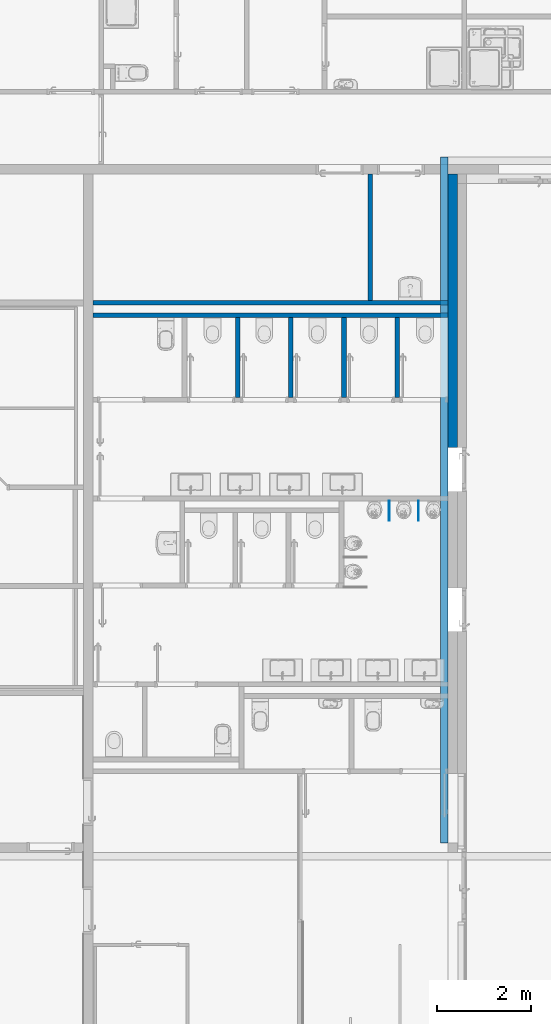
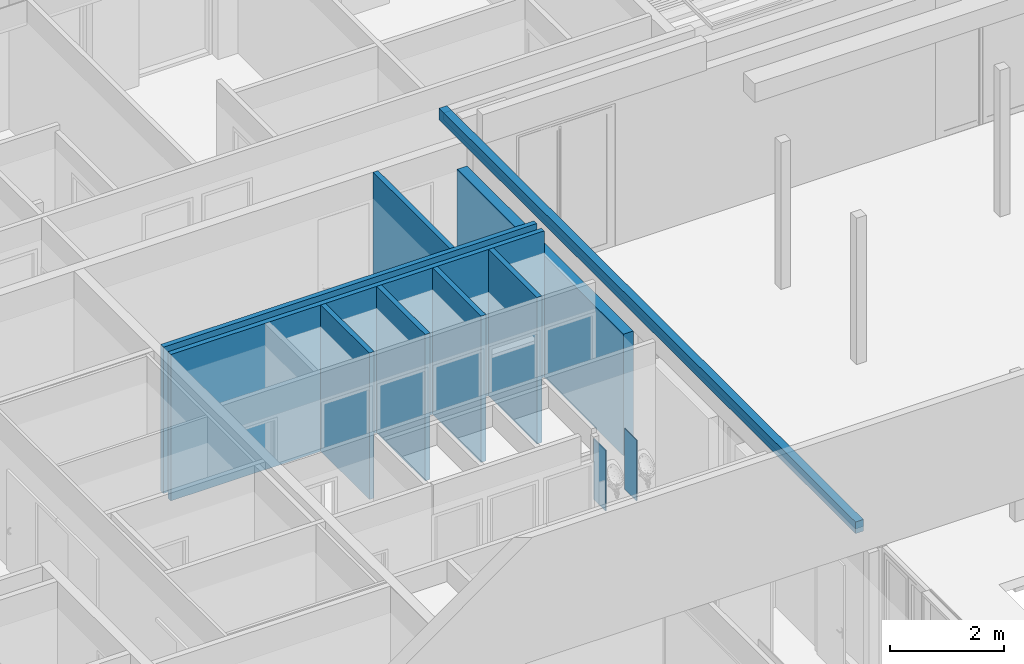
# One storey, part 122 of 240: 12 walls.
"""IFC2X3 building model written with IfcOpenShell, lengths in centimetres."""

from ifc_helpers import new_model, entity, si_unit, converted_unit, derived_unit, direction, frame, frame_2d, origin, place, context, subcontext, project, spatial, polyline, rectangle, extrude, clip, bounded_halfspace, material, layer, layer_set, layer_usage, type_object, element, save


model = new_model("IFC2X3")

# Units and contexts
model_context = context("Model", 3, precision=0.001, world=origin(), true_north=direction((6.12303176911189e-17, 1.0)))
body_context = subcontext(model_context, "Body", "Model", "MODEL_VIEW")
ifc_project = project(units=[si_unit("LENGTHUNIT", "METRE", prefix="CENTI"), si_unit("AREAUNIT", "SQUARE_METRE"), si_unit("VOLUMEUNIT", "CUBIC_METRE"), converted_unit("PLANEANGLEUNIT", "DEGREE", entity("IfcRatioMeasure", 0.0174532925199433), si_unit("PLANEANGLEUNIT", "RADIAN"), dimensions=[0, 0, 0, 0, 0, 0, 0]), si_unit("MASSUNIT", "GRAM", prefix="KILO"), derived_unit("MASSDENSITYUNIT", [(si_unit("MASSUNIT", "GRAM", prefix="KILO"), 1), (si_unit("LENGTHUNIT", "METRE"), -3)]), si_unit("TIMEUNIT", "SECOND"), si_unit("FREQUENCYUNIT", "HERTZ"), si_unit("THERMODYNAMICTEMPERATUREUNIT", "DEGREE_CELSIUS"), derived_unit("THERMALTRANSMITTANCEUNIT", [(si_unit("MASSUNIT", "GRAM", prefix="KILO"), 1), (si_unit("THERMODYNAMICTEMPERATUREUNIT", "KELVIN"), -1), (si_unit("TIMEUNIT", "SECOND"), -3)]), derived_unit("VOLUMETRICFLOWRATEUNIT", [(si_unit("LENGTHUNIT", "METRE"), 3), (si_unit("TIMEUNIT", "SECOND"), -1)]), si_unit("ELECTRICCURRENTUNIT", "AMPERE"), si_unit("ELECTRICVOLTAGEUNIT", "VOLT"), si_unit("POWERUNIT", "WATT"), si_unit("FORCEUNIT", "NEWTON", prefix="KILO"), si_unit("ILLUMINANCEUNIT", "LUX"), si_unit("LUMINOUSFLUXUNIT", "LUMEN"), si_unit("LUMINOUSINTENSITYUNIT", "CANDELA"), derived_unit("USERDEFINED", [(si_unit("MASSUNIT", "GRAM", prefix="KILO"), -1), (si_unit("LENGTHUNIT", "METRE"), -2), (si_unit("TIMEUNIT", "SECOND"), 3), (si_unit("LUMINOUSFLUXUNIT", "LUMEN"), 1)]), derived_unit("LINEARVELOCITYUNIT", [(si_unit("LENGTHUNIT", "METRE"), 1), (si_unit("TIMEUNIT", "SECOND"), -1)]), si_unit("PRESSUREUNIT", "PASCAL"), derived_unit("USERDEFINED", [(si_unit("LENGTHUNIT", "METRE"), -2), (si_unit("MASSUNIT", "GRAM", prefix="KILO"), 1), (si_unit("TIMEUNIT", "SECOND"), -2)])], contexts=[model_context])

# Site, building, storey
site_placement = place(None, frame((-2781.94577612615, 7442.24238424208, 0.0)))
site = spatial("IfcSite", under=ifc_project, at=site_placement, Name="Default", CompositionType="ELEMENT")
building_placement = place(site_placement, origin())
building = spatial("IfcBuilding", under=site, at=building_placement, CompositionType="ELEMENT")
storey_placement = place(building_placement, origin())
storey = spatial("IfcBuildingStorey", under=building, at=storey_placement, Name="N00 - COO", CompositionType="ELEMENT", Elevation=0.0)

# Walls
ifc_material_1 = material(Name="01 - Maçonnerie")
ifc_layer_1 = layer(ifc_material_1, 20.0)
ifc_layer_set_1 = layer_set([ifc_layer_1], Name="Mur de base:04 - Structure - béton - 20cm")
ifc_layer_usage_1 = layer_usage(ifc_layer_set_1, "AXIS2", "NEGATIVE", 10.0)
wall_type_1 = type_object("IfcWallType", Name="Mur de base:04 - Structure - béton - 20cm", PredefinedType="STANDARD", material=ifc_layer_set_1)
wall_1_placement = place(building_placement, frame((-8911.93218005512, -2512.07903364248, 0.0), z_axis=(0.0, 0.0, 1.0), x_axis=(0.0, 1.0, 0.0)))
element("IfcWallStandardCase", 1, at=wall_1_placement, inside=storey, type_object=wall_type_1, material=ifc_layer_usage_1, Name="Mur de base:04 - Structure - béton - 20cm", ObjectType="Mur de base:04 - Structure - béton - 20cm", context=body_context, shape_type="SweptSolid", body=[
    extrude(rectangle(XDim=582.000000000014, YDim=19.9999999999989, at=frame_2d((291.000000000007, 6.21724893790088e-15), x_axis=(-1.0, 0.0))), origin(), (0.0, 0.0, 1.0), 260.0),
])
ifc_material_2 = material(Name="00 - Isolant")
ifc_layer_2 = layer(ifc_material_2, 16.0)
ifc_layer_set_2 = layer_set([ifc_layer_2], Name="Mur de base:04 - retour isolation acrotère - ITE 16cm")
ifc_layer_usage_2 = layer_usage(ifc_layer_set_2, "AXIS2", "NEGATIVE", 8.0)
wall_type_2 = type_object("IfcWallType", Name="Mur de base:04 - retour isolation acrotère - ITE 16cm", PredefinedType="STANDARD", material=ifc_layer_set_2)
wall_2_placement = place(building_placement, frame((-8929.93218005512, -1894.07903364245, 349.0), z_axis=(0.0, 0.0, 1.0), x_axis=(0.0, -1.0, 0.0)))
element("IfcWallStandardCase", 2, at=wall_2_placement, inside=storey, type_object=wall_type_2, material=ifc_layer_usage_2, Name="Mur de base:04 - retour isolation acrotère - ITE 16cm", ObjectType="Mur de base:04 - retour isolation acrotère - ITE 16cm", context=body_context, shape_type="SweptSolid", body=[
    extrude(rectangle(XDim=1458.4427728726, YDim=15.9999999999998, at=frame_2d((729.221386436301, 3.10862446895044e-15), x_axis=(-1.0, 0.0))), origin(), (0.0, 0.0, 1.0), 25.0000000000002),
])
ifc_layer_usage_3 = layer_usage(ifc_layer_set_2, "AXIS2", "NEGATIVE", 8.0)
wall_3_placement = place(storey_placement, frame((-8929.93218005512, -1910.07903364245, 359.0), z_axis=(0.0, 0.0, 1.0), x_axis=(0.0, -1.0, 0.0)))
element("IfcWallStandardCase", 3, at=wall_3_placement, inside=storey, type_object=wall_type_2, material=ifc_layer_usage_3, Name="Mur de base:04 - retour isolation acrotère - ITE 16cm", ObjectType="Mur de base:04 - retour isolation acrotère - ITE 16cm", context=body_context, shape_type="Clipping", body=[
    clip(extrude(rectangle(XDim=1442.4427728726, YDim=15.9999999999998, at=frame_2d((721.221386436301, -5.77315972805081e-15), x_axis=(-1.0, 0.0))), origin(), (0.0, 0.0, 1.0), 15.0000000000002), bounded_halfspace(frame((1442.4427728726, -8.0, 0.0), z_axis=(0.0, 0.0, 1.0), x_axis=(0.0, 1.0, 0.0)), True, frame((1442.4427728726, -8.0, 0.0), z_axis=(0.0, 0.0, 1.0), x_axis=(0.0, 1.0, 0.0)), polyline([(0.0, 0.0), (16.0, 0.0), (16.0, 1442.4427728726), (0.0, 1442.4427728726), (0.0, 0.0)]))),
])
ifc_material_3 = material(Name="01 - Enduit/Plâtre")
ifc_layer_3 = layer(ifc_material_3, 1.3)
ifc_material_4 = material(Name="Terre cuite")
ifc_layer_4 = layer(ifc_material_4, 7.4)
ifc_layer_5 = layer(ifc_material_3, 1.3)
ifc_layer_set_3 = layer_set([ifc_layer_3, ifc_layer_4, ifc_layer_5], Name="Mur de base:06 - cloisons - Carreau de terre cuite (10cm)")
ifc_layer_usage_4 = layer_usage(ifc_layer_set_3, "AXIS2", "NEGATIVE", 5.0)
wall_type_3 = type_object("IfcWallType", Name="Mur de base:06 - cloisons - Carreau de terre cuite (10cm)", PredefinedType="STANDARD", material=ifc_layer_set_3)
wall_4_placement = place(building_placement, frame((-9677.0, -2204.07903364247, 0.0)))
element("IfcWallStandardCase", 4, at=wall_4_placement, inside=storey, type_object=wall_type_3, material=ifc_layer_usage_4, Name="Mur de base:06 - cloisons - Carreau de terre cuite (10cm)", ObjectType="Mur de base:06 - cloisons - Carreau de terre cuite (10cm)", context=body_context, shape_type="SweptSolid", body=[
    extrude(rectangle(XDim=755.067816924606, YDim=10.0000000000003, at=frame_2d((377.533908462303, -1.77635683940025e-15), x_axis=(-1.0, 0.0))), origin(), (0.0, 0.0, 1.0), 313.0),
])
ifc_layer_usage_5 = layer_usage(ifc_layer_set_3, "AXIS2", "NEGATIVE", 5.0)
wall_5_placement = place(building_placement, frame((-9087.0, -1930.07903364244, 0.0), z_axis=(0.0, 0.0, 1.0), x_axis=(0.0, -1.0, 0.0)))
element("IfcWallStandardCase", 5, at=wall_5_placement, inside=storey, type_object=wall_type_3, material=ifc_layer_usage_5, Name="Mur de base:06 - cloisons - Carreau de terre cuite (10cm)", ObjectType="Mur de base:06 - cloisons - Carreau de terre cuite (10cm)", context=body_context, shape_type="SweptSolid", body=[
    extrude(rectangle(XDim=269.000000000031, YDim=10.0000000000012, at=frame_2d((134.500000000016, 0.0), x_axis=(-1.0, 0.0))), origin(), (0.0, 0.0, 1.0), 313.0),
])
ifc_layer_usage_6 = layer_usage(ifc_layer_set_3, "AXIS2", "NEGATIVE", 5.0)
wall_6_placement = place(building_placement, frame((-9368.9660885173, -2235.07903364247, 0.0), z_axis=(0.0, 0.0, 1.0), x_axis=(0.0, -1.0, 0.0)))
element("IfcWallStandardCase", 6, at=wall_6_placement, inside=storey, type_object=wall_type_3, material=ifc_layer_usage_6, Name="Mur de base:06 - cloisons - Carreau de terre cuite (10cm)", ObjectType="Mur de base:06 - cloisons - Carreau de terre cuite (10cm)", context=body_context, shape_type="SweptSolid", body=[
    extrude(rectangle(XDim=170.0, YDim=10.0000000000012, at=frame_2d((84.9999999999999, 0.0), x_axis=(-1.0, 0.0))), origin(), (0.0, 0.0, 1.0), 313.0),
])
ifc_layer_usage_7 = layer_usage(ifc_layer_set_3, "AXIS2", "NEGATIVE", 5.0)
wall_7_placement = place(building_placement, frame((-9255.95930682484, -2235.07903364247, 0.0), z_axis=(0.0, 0.0, 1.0), x_axis=(0.0, -1.0, 0.0)))
element("IfcWallStandardCase", 7, at=wall_7_placement, inside=storey, type_object=wall_type_3, material=ifc_layer_usage_7, Name="Mur de base:06 - cloisons - Carreau de terre cuite (10cm)", ObjectType="Mur de base:06 - cloisons - Carreau de terre cuite (10cm)", context=body_context, shape_type="SweptSolid", body=[
    extrude(rectangle(XDim=170.0, YDim=10.0000000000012, at=frame_2d((84.9999999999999, 0.0), x_axis=(-1.0, 0.0))), origin(), (0.0, 0.0, 1.0), 313.0),
])
ifc_layer_usage_8 = layer_usage(ifc_layer_set_3, "AXIS2", "NEGATIVE", 5.0)
wall_8_placement = place(building_placement, frame((-9029.94574343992, -2235.07903364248, 0.0), z_axis=(0.0, 0.0, 1.0), x_axis=(0.0, -1.0, 0.0)))
element("IfcWallStandardCase", 8, at=wall_8_placement, inside=storey, type_object=wall_type_3, material=ifc_layer_usage_8, Name="Mur de base:06 - cloisons - Carreau de terre cuite (10cm)", ObjectType="Mur de base:06 - cloisons - Carreau de terre cuite (10cm)", context=body_context, shape_type="SweptSolid", body=[
    extrude(rectangle(XDim=170.0, YDim=10.0000000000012, at=frame_2d((84.9999999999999, 0.0), x_axis=(-1.0, 0.0))), origin(), (0.0, 0.0, 1.0), 313.0),
])
ifc_layer_usage_9 = layer_usage(ifc_layer_set_3, "AXIS2", "NEGATIVE", 5.0)
wall_9_placement = place(building_placement, frame((-9142.95252513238, -2235.07903364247, 0.0), z_axis=(0.0, 0.0, 1.0), x_axis=(0.0, -1.0, 0.0)))
element("IfcWallStandardCase", 9, at=wall_9_placement, inside=storey, type_object=wall_type_3, material=ifc_layer_usage_9, Name="Mur de base:06 - cloisons - Carreau de terre cuite (10cm)", ObjectType="Mur de base:06 - cloisons - Carreau de terre cuite (10cm)", context=body_context, shape_type="SweptSolid", body=[
    extrude(rectangle(XDim=170.0, YDim=10.0000000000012, at=frame_2d((84.9999999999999, 0.0), x_axis=(-1.0, 0.0))), origin(), (0.0, 0.0, 1.0), 313.0),
])
ifc_layer_usage_10 = layer_usage(ifc_layer_set_3, "AXIS2", "NEGATIVE", 5.0)
wall_10_placement = place(building_placement, frame((-9677.0, -2230.07903364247, 0.0)))
element("IfcWallStandardCase", 10, at=wall_10_placement, inside=storey, type_object=wall_type_3, material=ifc_layer_usage_10, Name="Mur de base:06 - cloisons - Carreau de terre cuite (10cm)", ObjectType="Mur de base:06 - cloisons - Carreau de terre cuite (10cm)", context=body_context, shape_type="SweptSolid", body=[
    extrude(rectangle(XDim=755.067816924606, YDim=10.0000000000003, at=frame_2d((377.533908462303, 0.0), x_axis=(-1.0, 0.0))), origin(), (0.0, 0.0, 1.0), 313.0),
])
ifc_material_5 = material(Name="Pin")
ifc_layer_6 = layer(ifc_material_5, 2.0)
ifc_layer_set_4 = layer_set([ifc_layer_6], Name="Mur de base:06 - habillage bois collée 2cm")
ifc_layer_usage_11 = layer_usage(ifc_layer_set_4, "AXIS2", "NEGATIVE", 1.0)
wall_type_4 = type_object("IfcWallType", Name="Mur de base:06 - habillage bois collée 2cm", PredefinedType="STANDARD", material=ifc_layer_set_4)
wall_11_placement = place(building_placement, frame((-9046.9660885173, -2625.07903364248, 20.0), z_axis=(0.0, 0.0, 1.0), x_axis=(0.0, -1.0, 0.0)))
element("IfcWallStandardCase", 11, at=wall_11_placement, inside=storey, type_object=wall_type_4, material=ifc_layer_usage_11, Name="Mur de base:06 - habillage bois collée 2cm", ObjectType="Mur de base:06 - habillage bois collée 2cm", context=body_context, shape_type="SweptSolid", body=[
    extrude(rectangle(XDim=42.0, YDim=1.99999999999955, at=frame_2d((21.0, 0.0), x_axis=(-1.0, 0.0))), origin(), (0.0, 0.0, 1.0), 130.0),
])
ifc_layer_usage_12 = layer_usage(ifc_layer_set_4, "AXIS2", "NEGATIVE", 1.0)
wall_12_placement = place(building_placement, frame((-8984.44913428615, -2625.07903364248, 20.0), z_axis=(0.0, 0.0, 1.0), x_axis=(0.0, -1.0, 0.0)))
element("IfcWallStandardCase", 12, at=wall_12_placement, inside=storey, type_object=wall_type_4, material=ifc_layer_usage_12, Name="Mur de base:06 - habillage bois collée 2cm", ObjectType="Mur de base:06 - habillage bois collée 2cm", context=body_context, shape_type="SweptSolid", body=[
    extrude(rectangle(XDim=41.9999999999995, YDim=1.99999999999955, at=frame_2d((20.9999999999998, 0.0), x_axis=(-1.0, 0.0))), origin(), (0.0, 0.0, 1.0), 130.0),
])

save(model, "model.ifc")
